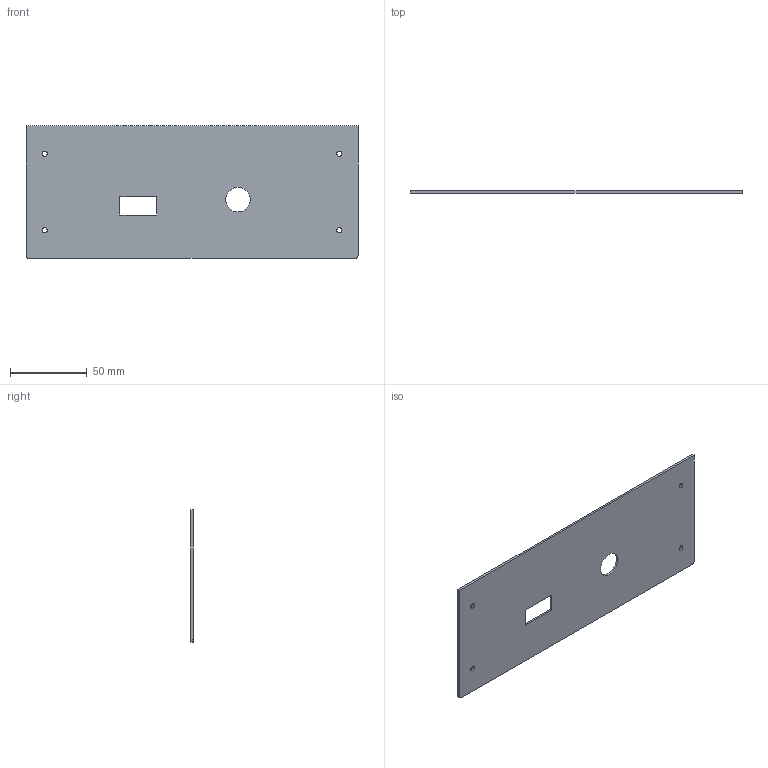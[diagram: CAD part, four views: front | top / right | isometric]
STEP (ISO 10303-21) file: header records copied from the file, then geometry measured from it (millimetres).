
FILE_DESCRIPTION(('Open CASCADE Model'),'2;1');
FILE_NAME('Open CASCADE Shape Model','2026-10-28T07:21:37',('Author'),( 'Open CASCADE'),'Open CASCADE STEP processor 7.8','Open CASCADE 7.8' ,'Unknown');
FILE_SCHEMA(('AUTOMOTIVE_DESIGN { 1 0 10303 214 1 1 1 1 }'));
Length unit declared in the file: millimetre
Products named in the file (1): Open CASCADE STEP translator 7.8 6
Bounding box: 216.4 x 1.5 x 86.4 mm (x, y, z)
Volume: 27255.5 mm3; surface area: 37494.4 mm2
Topology: 1 solids, 1 shells, 17 faces, 45 edges, 30 vertices
Faces by surface type: plane 10, cylinder 7
Full cylindrical faces by diameter (mm): 3.4 x4, 16 x1
Entity records: 1166 total; most frequent: CARTESIAN_POINT 259, DIRECTION 159, LINE 91, VECTOR 91, ORIENTED_EDGE 90, PCURVE 90, DEFINITIONAL_REPRESENTATION 90, EDGE_CURVE 45
